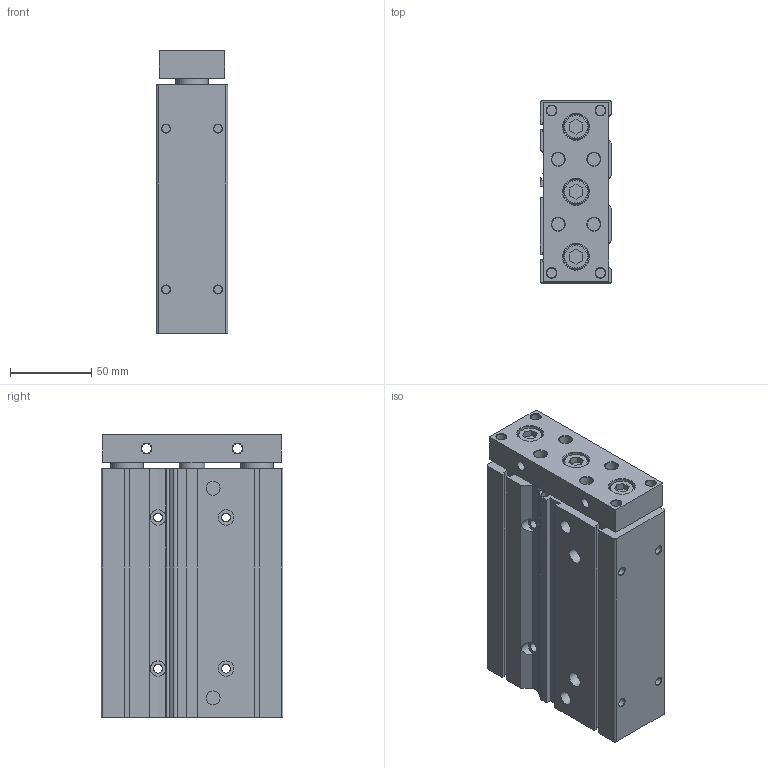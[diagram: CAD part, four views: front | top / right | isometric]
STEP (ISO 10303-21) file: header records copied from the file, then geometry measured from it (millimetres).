
FILE_DESCRIPTION((''),'2;1');
FILE_NAME('Z:\3D電子目錄\氣缸\TB(U)\TB(U)32\TB(U)32\TB32x100.stp','2011-09-22T10:55:23',('admin'),(''),'Autodesk Inventor 2012','Autodesk Inventor 2012','');
FILE_SCHEMA(('AUTOMOTIVE_DESIGN { 1 0 10303 214 1 1 1 1 }'));
Length unit declared in the file: millimetre
Products named in the file (1): TB32X100
Bounding box: 44 x 112 x 174 mm (x, y, z)
Volume: 769063.2 mm3; surface area: 92152.9 mm2
Topology: 1 solids, 1 shells, 206 faces, 462 edges, 294 vertices
Faces by surface type: plane 110, cylinder 56, cone 37, torus 3
Full cylindrical faces by diameter (mm): 5 x8, 5.5 x4, 6 x10, 8 x4, 8.5 x2, 9.5 x8, 15 x3, 16 x4, 20 x4, 28 x2, 34 x1
Entity records: 5348 total; most frequent: DIRECTION 944, CARTESIAN_POINT 873, ORIENTED_EDGE 744, EDGE_CURVE 372, AXIS2_PLACEMENT_3D 365, EDGE_LOOP 364, VERTEX_POINT 294, VECTOR 214
